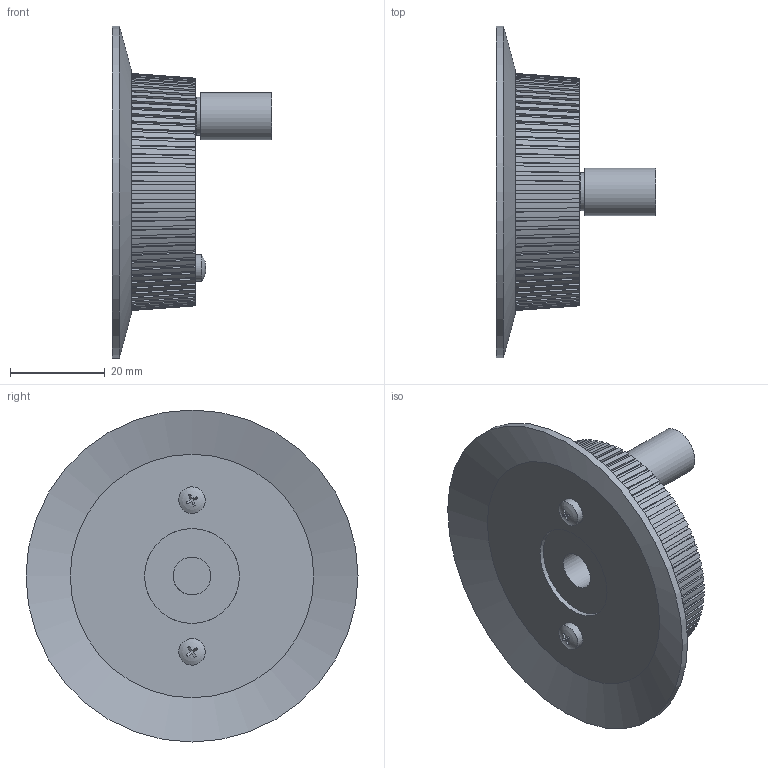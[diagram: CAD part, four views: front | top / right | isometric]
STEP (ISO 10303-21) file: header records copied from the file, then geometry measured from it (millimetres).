
FILE_DESCRIPTION((''),'2;1');
FILE_NAME('C:\Dokumente und Einstellungen\CAD\Desktop\9100.00.020_Drehknopf_bd8mm.stp','2013-10-22T08:54:15',('CAD'),(''),'Autodesk Inventor 2011','Autodesk Inventor 2011','');
FILE_SCHEMA(('AUTOMOTIVE_DESIGN { 1 0 10303 214 1 1 1 1 }'));
Length unit declared in the file: millimetre
Products named in the file (7): 9100.00; 6099.25; 6099.25.123_Hülse_d5.3xd4; 0306.06.034_Freedrive_M3x6
Assembly tree (9 placements, depth 2):
  9100.00
    6099.25
    6099.25
    6099.25
    6099.25
    6099.25.123_Hülse_d5.3xd4
    0306.06.034_Freedrive_M3x6  x4
Bounding box: 33.7 x 70 x 70 mm (x, y, z)
Volume: 30700.4 mm3; surface area: 19943.1 mm2
Topology: 9 solids, 9 shells, 448 faces, 1227 edges, 804 vertices
Faces by surface type: plane 320, cone 88, cylinder 32, torus 4, sphere 4
Full cylindrical faces by diameter (mm): 2.459 x3, 2.5 x4, 3 x4, 3.2 x4, 4 x1, 4.2 x1, 5.3 x1, 5.5 x1, 5.6 x4, 8 x3, 10 x1, 20 x2, 42 x1, 42.5 x1, 70 x1
Entity records: 12598 total; most frequent: CARTESIAN_POINT 2242, ORIENTED_EDGE 2120, DIRECTION 2084, EDGE_CURVE 1060, VECTOR 828, LINE 828, VERTEX_POINT 720, AXIS2_PLACEMENT_3D 628
